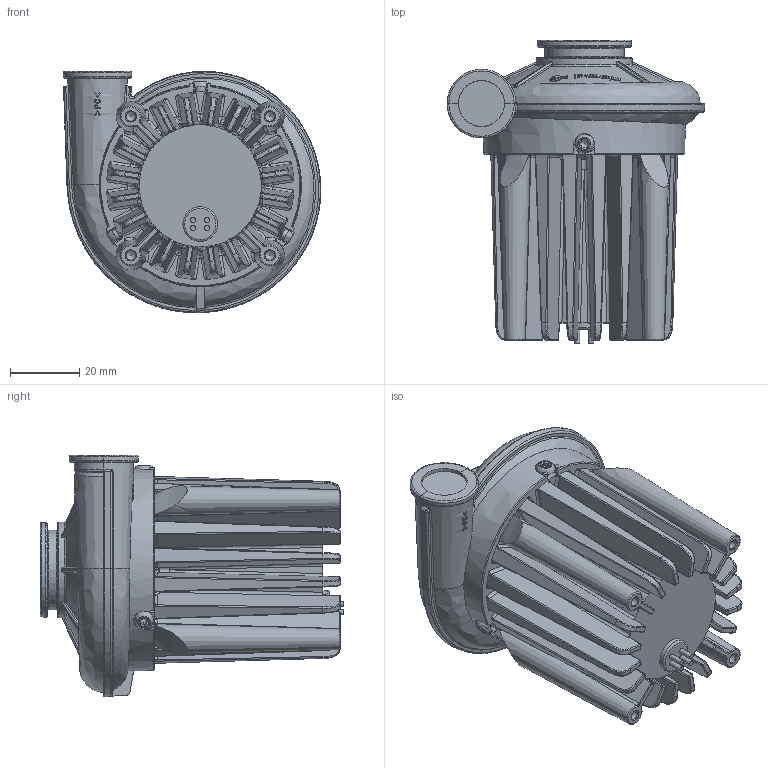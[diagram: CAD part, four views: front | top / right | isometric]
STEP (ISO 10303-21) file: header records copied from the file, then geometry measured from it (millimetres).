
FILE_DESCRIPTION(/* description */ (''),/* implementation_level */ '2;1');
FILE_NAME(/* name */ 'U71HL-024KM-4.stp',/* time_stamp */ '2024-06-24T09:41:51+02:00',/* author */ (''),/* organization */ (''),/* preprocessor_version */ 'ST-DEVELOPER v16.7',/* originating_system */ 'SIEMENS PLM Software NX 1946',/* authorisation */ '');
FILE_SCHEMA (('AUTOMOTIVE_DESIGN { 1 0 10303 214 3 1 1 1 }'));
Length unit declared in the file: millimetre
Products named in the file (1): 021756_1- __
Bounding box: 74.2 x 87.4 x 69.52 mm (x, y, z)
Volume: 162625.8 mm3; surface area: 41221.3 mm2
Topology: 1 solids, 8 shells, 1497 faces, 3795 edges, 2336 vertices
Faces by surface type: plane 500, bspline 367, cylinder 350, cone 120, torus 96, sphere 44, revolution 17, extrusion 3
Full cylindrical faces by diameter (mm): 1.5 x4, 2.75 x4, 3 x3, 10 x1, 22.9 x1
Entity records: 58618 total; most frequent: CARTESIAN_POINT 27551, ORIENTED_EDGE 7442, DIRECTION 4814, EDGE_CURVE 3721, VERTEX_POINT 2318, AXIS2_PLACEMENT_3D 1770, B_SPLINE_CURVE_WITH_KNOTS 1751, EDGE_LOOP 1578
